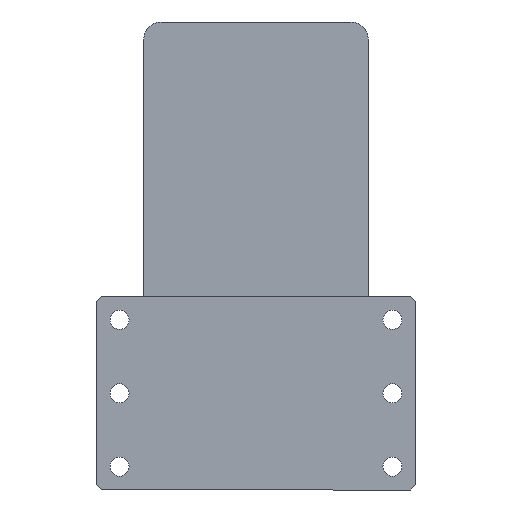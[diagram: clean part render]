
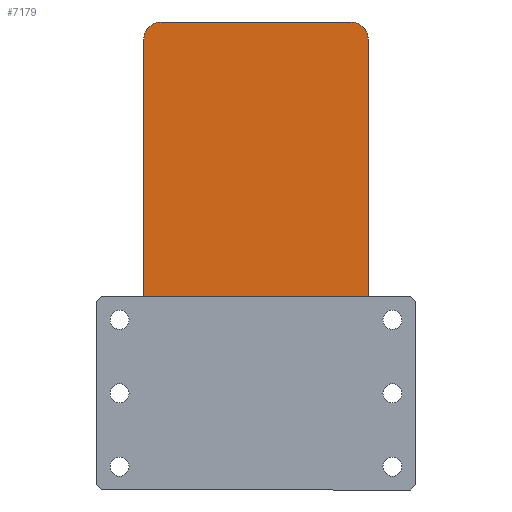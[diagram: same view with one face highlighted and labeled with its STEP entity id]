
A CAD part, left-side view. The second image highlights one B-rep face of the part: STEP entity #7179.
In plain terms, the highlighted planar face has unit normal (-1, 0, 0) as drawn and (0, 0, 1) by its records, which use the part's own axes.
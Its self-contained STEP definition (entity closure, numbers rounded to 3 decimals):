
#120 = ORIENTED_EDGE ( 'NONE', *, *, #15994, .T. ) ;
#645 = LINE ( 'NONE', #17471, #4883 ) ;
#921 = CIRCLE ( 'NONE', #4215, 10. ) ;
#1331 = VERTEX_POINT ( 'NONE', #20046 ) ;
#1399 = ORIENTED_EDGE ( 'NONE', *, *, #15537, .T. ) ;
#1513 = VERTEX_POINT ( 'NONE', #7412 ) ;
#1517 = ORIENTED_EDGE ( 'NONE', *, *, #15331, .T. ) ;
#2154 = VECTOR ( 'NONE', #6961, 1000. ) ;
#2182 = LINE ( 'NONE', #7126, #2154 ) ;
#2419 = FACE_OUTER_BOUND ( 'NONE', #4570, .T. ) ;
#3182 = LINE ( 'NONE', #20088, #5359 ) ;
#4050 = ORIENTED_EDGE ( 'NONE', *, *, #16095, .T. ) ;
#4215 = AXIS2_PLACEMENT_3D ( 'NONE', #12964, #12925, #12897 ) ;
#4570 = EDGE_LOOP ( 'NONE', ( #120, #6113, #1517, #4050, #1399, #6679, #7305, #7815 ) ) ;
#4883 = VECTOR ( 'NONE', #17534, 1000. ) ;
#5260 = CARTESIAN_POINT ( 'NONE',  ( -65., 135., 105. ) ) ;
#5312 = DIRECTION ( 'NONE',  ( -1., 0., 0. ) ) ;
#5359 = VECTOR ( 'NONE', #20256, 1000. ) ;
#6113 = ORIENTED_EDGE ( 'NONE', *, *, #16076, .T. ) ;
#6642 = CARTESIAN_POINT ( 'NONE',  ( -65., -125., 105. ) ) ;
#6679 = ORIENTED_EDGE ( 'NONE', *, *, #16184, .T. ) ;
#6961 = DIRECTION ( 'NONE',  ( 0., 1., 0. ) ) ;
#7126 = CARTESIAN_POINT ( 'NONE',  ( 65., 135., 105. ) ) ;
#7179 = ADVANCED_FACE ( 'NONE', ( #2419 ), #18563, .T. ) ;
#7305 = ORIENTED_EDGE ( 'NONE', *, *, #15849, .T. ) ;
#7412 = CARTESIAN_POINT ( 'NONE',  ( -65., 125., 105. ) ) ;
#7486 = VERTEX_POINT ( 'NONE', #13835 ) ;
#7815 = ORIENTED_EDGE ( 'NONE', *, *, #16214, .T. ) ;
#7918 = AXIS2_PLACEMENT_3D ( 'NONE', #18800, #18521, #18502 ) ;
#8739 = VERTEX_POINT ( 'NONE', #15889 ) ;
#10177 = VERTEX_POINT ( 'NONE', #17237 ) ;
#10550 = VERTEX_POINT ( 'NONE', #11744 ) ;
#11744 = CARTESIAN_POINT ( 'NONE',  ( 55., -135., 105. ) ) ;
#12255 = CIRCLE ( 'NONE', #16618, 10. ) ;
#12529 = AXIS2_PLACEMENT_3D ( 'NONE', #16150, #16122, #16090 ) ;
#12897 = DIRECTION ( 'NONE',  ( 1., 0., 0. ) ) ;
#12925 = DIRECTION ( 'NONE',  ( 0., 0., 1. ) ) ;
#12964 = CARTESIAN_POINT ( 'NONE',  ( -55., -125., 105. ) ) ;
#13797 = DIRECTION ( 'NONE',  ( 1., 0., 0. ) ) ;
#13826 = DIRECTION ( 'NONE',  ( 0., 0., 1. ) ) ;
#13835 = CARTESIAN_POINT ( 'NONE',  ( 55., 135., 105. ) ) ;
#13850 = CARTESIAN_POINT ( 'NONE',  ( -55., 125., 105. ) ) ;
#15331 = EDGE_CURVE ( 'NONE', #15967, #1331, #2182, .T. ) ;
#15537 = EDGE_CURVE ( 'NONE', #7486, #10177, #18026, .T. ) ;
#15757 = DIRECTION ( 'NONE',  ( 1., 0., 0. ) ) ;
#15780 = DIRECTION ( 'NONE',  ( 0., 0., 1. ) ) ;
#15820 = CARTESIAN_POINT ( 'NONE',  ( 55., 125., 105. ) ) ;
#15849 = EDGE_CURVE ( 'NONE', #1513, #19318, #3182, .T. ) ;
#15863 = CIRCLE ( 'NONE', #18438, 10. ) ;
#15889 = CARTESIAN_POINT ( 'NONE',  ( -55., -135., 105. ) ) ;
#15967 = VERTEX_POINT ( 'NONE', #19048 ) ;
#15994 = EDGE_CURVE ( 'NONE', #8739, #10550, #645, .T. ) ;
#16076 = EDGE_CURVE ( 'NONE', #10550, #15967, #16315, .T. ) ;
#16090 = DIRECTION ( 'NONE',  ( 1., 0., 0. ) ) ;
#16095 = EDGE_CURVE ( 'NONE', #1331, #7486, #12255, .T. ) ;
#16122 = DIRECTION ( 'NONE',  ( 0., 0., 1. ) ) ;
#16150 = CARTESIAN_POINT ( 'NONE',  ( 55., -125., 105. ) ) ;
#16184 = EDGE_CURVE ( 'NONE', #10177, #1513, #15863, .T. ) ;
#16214 = EDGE_CURVE ( 'NONE', #19318, #8739, #921, .T. ) ;
#16315 = CIRCLE ( 'NONE', #12529, 10. ) ;
#16618 = AXIS2_PLACEMENT_3D ( 'NONE', #15820, #15780, #15757 ) ;
#16746 = VECTOR ( 'NONE', #5312, 1000. ) ;
#17237 = CARTESIAN_POINT ( 'NONE',  ( -55., 135., 105. ) ) ;
#17471 = CARTESIAN_POINT ( 'NONE',  ( -65., -135., 105. ) ) ;
#17534 = DIRECTION ( 'NONE',  ( 1., 0., 0. ) ) ;
#18026 = LINE ( 'NONE', #5260, #16746 ) ;
#18438 = AXIS2_PLACEMENT_3D ( 'NONE', #13850, #13826, #13797 ) ;
#18502 = DIRECTION ( 'NONE',  ( 1., 0., 0. ) ) ;
#18521 = DIRECTION ( 'NONE',  ( 0., 0., 1. ) ) ;
#18563 = PLANE ( 'NONE',  #7918 ) ;
#18800 = CARTESIAN_POINT ( 'NONE',  ( 0., 0., 105. ) ) ;
#19048 = CARTESIAN_POINT ( 'NONE',  ( 65., -125., 105. ) ) ;
#19318 = VERTEX_POINT ( 'NONE', #6642 ) ;
#20046 = CARTESIAN_POINT ( 'NONE',  ( 65., 125., 105. ) ) ;
#20088 = CARTESIAN_POINT ( 'NONE',  ( -65., 135., 105. ) ) ;
#20256 = DIRECTION ( 'NONE',  ( 0., -1., 0. ) ) ;
